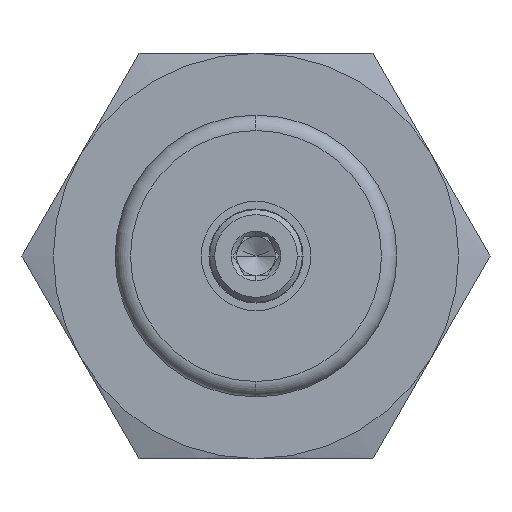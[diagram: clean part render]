
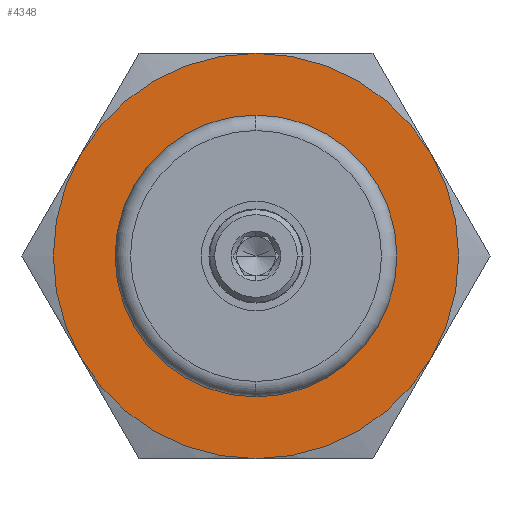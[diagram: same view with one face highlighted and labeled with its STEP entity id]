
A CAD part, left-side view. The second image highlights one B-rep face of the part: STEP entity #4348.
In plain terms, the highlighted planar face has unit normal (-1, 0, 0).
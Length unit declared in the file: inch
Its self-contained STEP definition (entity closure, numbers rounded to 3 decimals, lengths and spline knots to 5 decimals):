
#392=CARTESIAN_POINT('',(-0.63,0.565,0.));
#393=VERTEX_POINT('',#392);
#410=CARTESIAN_POINT('',(-0.63,-0.565,0.));
#411=VERTEX_POINT('',#410);
#418=CARTESIAN_POINT('',(-0.63,0.0,0.));
#419=DIRECTION('',(1.0,0.0,0.0));
#420=DIRECTION('',(0.0,1.0,0.0));
#421=AXIS2_PLACEMENT_3D('',#418,#419,#420);
#422=CIRCLE('',#421,0.565);
#423=EDGE_CURVE('',#393,#411,#422,.T.);
#4277=CARTESIAN_POINT('',(-0.63,0.,0.));
#4278=DIRECTION('',(-1.0,0.0,0.0));
#4279=DIRECTION('',(0.0,0.0,1.0));
#4280=AXIS2_PLACEMENT_3D('',#4277,#4278,#4279);
#4281=PLANE('',#4280);
#4282=CARTESIAN_POINT('',(-0.63,0.70365,-0.40625));
#4283=VERTEX_POINT('',#4282);
#4284=CARTESIAN_POINT('',(-0.63,0.0,-0.8125));
#4285=VERTEX_POINT('',#4284);
#4286=CARTESIAN_POINT('',(-0.63,0.0,0.));
#4287=DIRECTION('',(-1.0,0.0,0.0));
#4288=DIRECTION('',(0.0,0.0,1.0));
#4289=AXIS2_PLACEMENT_3D('',#4286,#4287,#4288);
#4290=CIRCLE('',#4289,0.8125);
#4291=EDGE_CURVE('',#4283,#4285,#4290,.T.);
#4292=ORIENTED_EDGE('',*,*,#4291,.T.);
#4293=CARTESIAN_POINT('',(-0.63,-0.70365,-0.40625));
#4294=VERTEX_POINT('',#4293);
#4295=CARTESIAN_POINT('',(-0.63,0.0,0.));
#4296=DIRECTION('',(-1.0,0.0,0.0));
#4297=DIRECTION('',(0.0,0.0,1.0));
#4298=AXIS2_PLACEMENT_3D('',#4295,#4296,#4297);
#4299=CIRCLE('',#4298,0.8125);
#4300=EDGE_CURVE('',#4285,#4294,#4299,.T.);
#4301=ORIENTED_EDGE('',*,*,#4300,.T.);
#4302=CARTESIAN_POINT('',(-0.63,-0.70365,0.40625));
#4303=VERTEX_POINT('',#4302);
#4304=CARTESIAN_POINT('',(-0.63,0.0,0.));
#4305=DIRECTION('',(-1.0,0.0,0.0));
#4306=DIRECTION('',(0.0,0.0,1.0));
#4307=AXIS2_PLACEMENT_3D('',#4304,#4305,#4306);
#4308=CIRCLE('',#4307,0.8125);
#4309=EDGE_CURVE('',#4294,#4303,#4308,.T.);
#4310=ORIENTED_EDGE('',*,*,#4309,.T.);
#4311=CARTESIAN_POINT('',(-0.63,0.0,0.8125));
#4312=VERTEX_POINT('',#4311);
#4313=CARTESIAN_POINT('',(-0.63,0.0,0.));
#4314=DIRECTION('',(-1.0,0.0,0.0));
#4315=DIRECTION('',(0.0,0.0,1.0));
#4316=AXIS2_PLACEMENT_3D('',#4313,#4314,#4315);
#4317=CIRCLE('',#4316,0.8125);
#4318=EDGE_CURVE('',#4303,#4312,#4317,.T.);
#4319=ORIENTED_EDGE('',*,*,#4318,.T.);
#4320=CARTESIAN_POINT('',(-0.63,0.70365,0.40625));
#4321=VERTEX_POINT('',#4320);
#4322=CARTESIAN_POINT('',(-0.63,0.0,0.));
#4323=DIRECTION('',(-1.0,0.0,0.0));
#4324=DIRECTION('',(0.0,0.0,1.0));
#4325=AXIS2_PLACEMENT_3D('',#4322,#4323,#4324);
#4326=CIRCLE('',#4325,0.8125);
#4327=EDGE_CURVE('',#4312,#4321,#4326,.T.);
#4328=ORIENTED_EDGE('',*,*,#4327,.T.);
#4329=CARTESIAN_POINT('',(-0.63,0.0,0.));
#4330=DIRECTION('',(-1.0,0.0,0.0));
#4331=DIRECTION('',(0.0,0.0,1.0));
#4332=AXIS2_PLACEMENT_3D('',#4329,#4330,#4331);
#4333=CIRCLE('',#4332,0.8125);
#4334=EDGE_CURVE('',#4321,#4283,#4333,.T.);
#4335=ORIENTED_EDGE('',*,*,#4334,.T.);
#4336=EDGE_LOOP('',(#4292,#4301,#4310,#4319,#4328,#4335));
#4337=FACE_OUTER_BOUND('',#4336,.T.);
#4338=ORIENTED_EDGE('',*,*,#423,.T.);
#4339=CARTESIAN_POINT('',(-0.63,0.0,0.));
#4340=DIRECTION('',(1.0,0.0,0.0));
#4341=DIRECTION('',(0.0,1.0,0.0));
#4342=AXIS2_PLACEMENT_3D('',#4339,#4340,#4341);
#4343=CIRCLE('',#4342,0.565);
#4344=EDGE_CURVE('',#411,#393,#4343,.T.);
#4345=ORIENTED_EDGE('',*,*,#4344,.T.);
#4346=EDGE_LOOP('',(#4338,#4345));
#4347=FACE_BOUND('',#4346,.T.);
#4348=ADVANCED_FACE('',(#4337,#4347),#4281,.T.);
